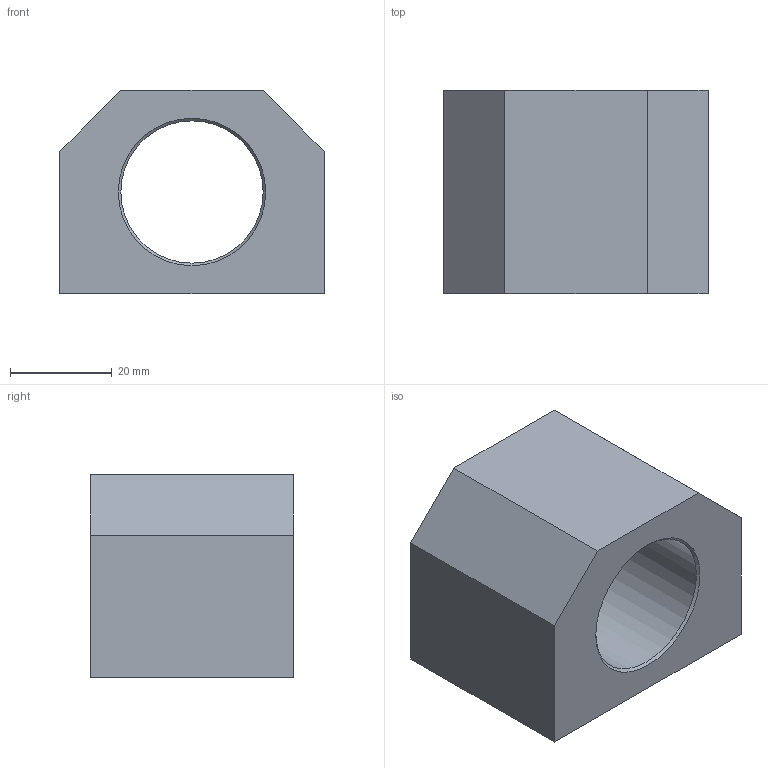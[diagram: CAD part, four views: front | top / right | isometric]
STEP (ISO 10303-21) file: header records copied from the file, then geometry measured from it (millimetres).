
FILE_DESCRIPTION(('STEP AP203'), '1');
FILE_NAME('Äåðæàòåëü ãàéêè ØÂÏ DSG1605 1610', '', ('UNSPECIFIED'), ('UNSPECIFIED'), 'ASCON STEP Converter 1.6', 'ASCON Math Kernel', '');
FILE_SCHEMA(('CONFIG_CONTROL_DESIGN'));
Length unit declared in the file: millimetre
Bounding box: 52 x 40 x 40 mm (x, y, z)
Volume: 50509.1 mm3; surface area: 14943.1 mm2
Topology: 1 solids, 1 shells, 41 faces, 95 edges, 56 vertices
Faces by surface type: cone 22, cylinder 11, plane 8
Full cylindrical faces by diameter (mm): 4.134 x10, 28 x1
Entity records: 1264 total; most frequent: DIRECTION 170, CARTESIAN_POINT 140, ORIENTED_EDGE 104, AXIS2_PLACEMENT_3D 76, EDGE_LOOP 76, FACE_OUTER_BOUND 56, EDGE_CURVE 52, VERTEX_POINT 46
